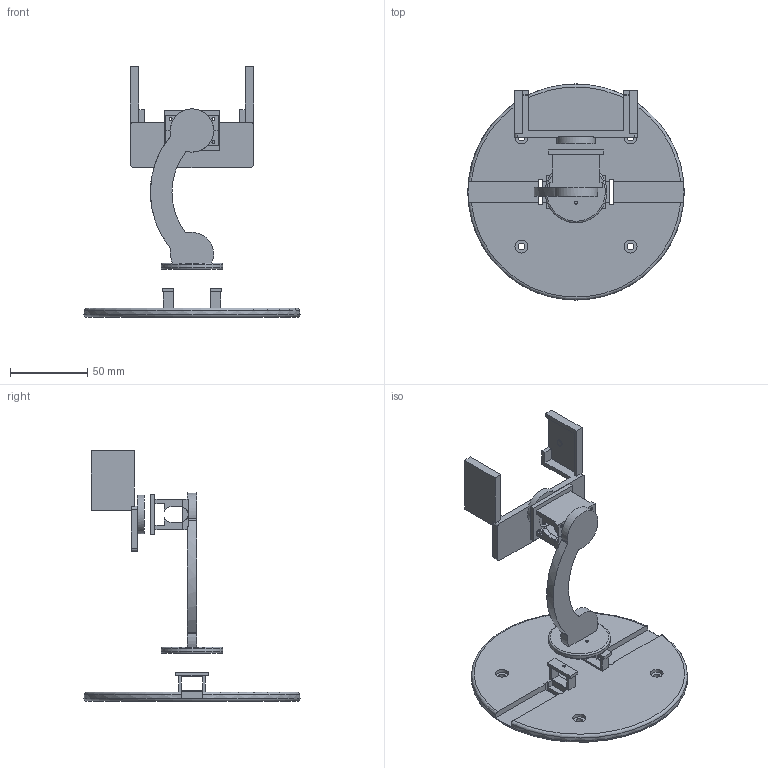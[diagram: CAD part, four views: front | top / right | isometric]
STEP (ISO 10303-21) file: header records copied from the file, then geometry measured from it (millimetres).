
FILE_DESCRIPTION(('Open CASCADE Model'),'2;1');
FILE_NAME('Open CASCADE Shape Model','2026-08-28T21:32:48',('Author'),( 'Open CASCADE'),'Open CASCADE STEP processor 7.8','Open CASCADE 7.8' ,'Unknown');
FILE_SCHEMA(('AUTOMOTIVE_DESIGN { 1 0 10303 214 1 1 1 1 }'));
Length unit declared in the file: millimetre
Products named in the file (5): C270_PanTilt_Printable_Assembly; PanServo_StabilityBase; CurvedArm_SG90_TiltHolder; SG90_RetainingCap; Logitech_C270_ScrewlessCradle
Assembly tree (4 placements, depth 2):
  C270_PanTilt_Printable_Assembly
    PanServo_StabilityBase
    CurvedArm_SG90_TiltHolder
    SG90_RetainingCap
    Logitech_C270_ScrewlessCradle
Bounding box: 140 x 140 x 162.31 mm (x, y, z)
Volume: 130463.6 mm3; surface area: 62377.7 mm2
Topology: 4 solids, 4 shells, 211 faces, 579 edges, 383 vertices
Faces by surface type: plane 152, cylinder 50, torus 5, bspline 4
Full cylindrical faces by diameter (mm): 1.8 x4, 1.9 x2, 2 x8, 2.4 x4, 3.2 x2, 4 x2, 4.4 x4, 8.4 x4, 25 x1, 40 x1, 140 x1
Entity records: 14709 total; most frequent: CARTESIAN_POINT 3401, DIRECTION 1926, ORIENTED_EDGE 1158, PCURVE 1158, DEFINITIONAL_REPRESENTATION 1158, LINE 1108, VECTOR 1108, EDGE_CURVE 579
